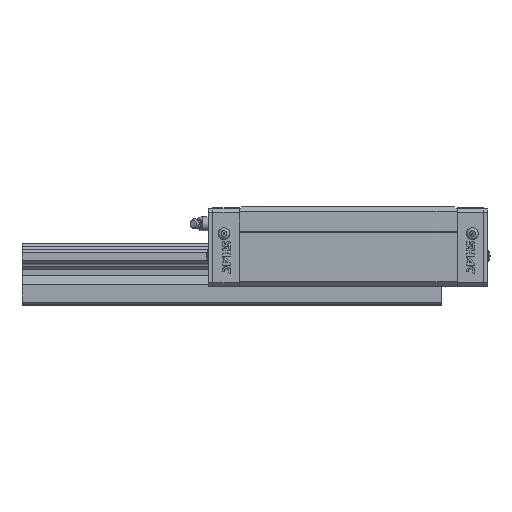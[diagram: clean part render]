
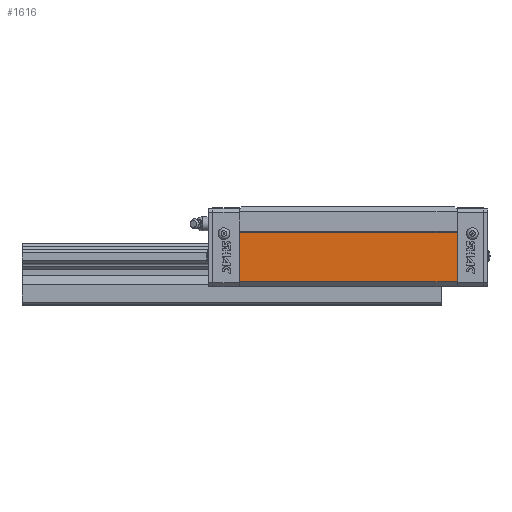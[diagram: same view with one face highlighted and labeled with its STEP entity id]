
A CAD part, top view. The second image highlights one B-rep face of the part: STEP entity #1616.
In plain terms, the highlighted planar face has unit normal (0, 0, 1).
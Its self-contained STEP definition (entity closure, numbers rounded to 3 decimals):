
#1616 = ADVANCED_FACE( '', ( #3202 ), #3203, .F. );
#3202 = FACE_OUTER_BOUND( '', #4770, .T. );
#3203 = PLANE( '', #4771 );
#4770 = EDGE_LOOP( '', ( #9039, #9040, #9041, #9042 ) );
#4771 = AXIS2_PLACEMENT_3D( '', #9043, #9044, #9045 );
#9039 = ORIENTED_EDGE( '', *, *, #9656, .T. );
#9040 = ORIENTED_EDGE( '', *, *, #9822, .F. );
#9041 = ORIENTED_EDGE( '', *, *, #9484, .F. );
#9042 = ORIENTED_EDGE( '', *, *, #10686, .T. );
#9043 = CARTESIAN_POINT( '', ( 77.9, 51.727, 49.228 ) );
#9044 = DIRECTION( '', ( 0., 0., -1. ) );
#9045 = DIRECTION( '', ( -1., 0., 0. ) );
#9484 = EDGE_CURVE( '', #11459, #11461, #11462, .T. );
#9656 = EDGE_CURVE( '', #11751, #11749, #11752, .T. );
#9822 = EDGE_CURVE( '', #11461, #11749, #12009, .T. );
#10686 = EDGE_CURVE( '', #11459, #11751, #13176, .T. );
#11459 = VERTEX_POINT( '', #14235 );
#11461 = VERTEX_POINT( '', #14238 );
#11462 = LINE( '', #14239, #14240 );
#11749 = VERTEX_POINT( '', #14638 );
#11751 = VERTEX_POINT( '', #14641 );
#11752 = LINE( '', #14642, #14643 );
#12009 = LINE( '', #14988, #14989 );
#13176 = LINE( '', #16802, #16803 );
#14235 = CARTESIAN_POINT( '', ( 77.9, 51.727, 49.228 ) );
#14238 = CARTESIAN_POINT( '', ( 77.9, 16.35, 49.228 ) );
#14239 = CARTESIAN_POINT( '', ( 77.9, 51.727, 49.228 ) );
#14240 = VECTOR( '', #17327, 1000. );
#14638 = CARTESIAN_POINT( '', ( -77.9, 16.35, 49.228 ) );
#14641 = CARTESIAN_POINT( '', ( -77.9, 51.727, 49.228 ) );
#14642 = CARTESIAN_POINT( '', ( -77.9, 51.727, 49.228 ) );
#14643 = VECTOR( '', #17524, 1000. );
#14988 = CARTESIAN_POINT( '', ( 77.9, 16.35, 49.228 ) );
#14989 = VECTOR( '', #17733, 1000. );
#16802 = CARTESIAN_POINT( '', ( 77.9, 51.727, 49.228 ) );
#16803 = VECTOR( '', #18446, 1000. );
#17327 = DIRECTION( '', ( 0., -1., 0. ) );
#17524 = DIRECTION( '', ( 0., -1., 0. ) );
#17733 = DIRECTION( '', ( -1., 0., 0. ) );
#18446 = DIRECTION( '', ( -1., 0., 0. ) );
